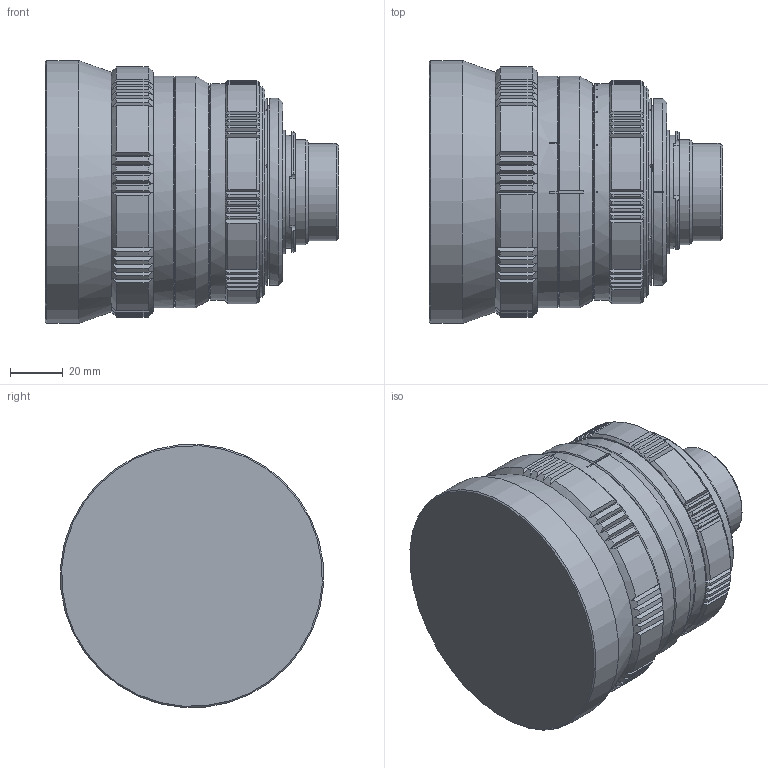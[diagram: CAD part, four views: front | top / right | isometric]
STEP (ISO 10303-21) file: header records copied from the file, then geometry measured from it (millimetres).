
FILE_DESCRIPTION((''),'2;1');
FILE_NAME('C:\Users\dblandino\Desktop\C0811_002_001.stp','2014-04-28T11:52:03',('dblandino'),(''),'Autodesk Inventor 2010','Autodesk Inventor 2010','');
FILE_SCHEMA(('AUTOMOTIVE_DESIGN { 1 0 10303 214 1 1 1 1 }'));
Length unit declared in the file: millimetre
Products named in the file (2): C0811_002_001.iam (Livello di dettaglio sostituto1); C0811_002_001_SUB
Assembly tree (1 placements, depth 2):
  C0811_002_001.iam (Livello di dettaglio sostituto1)
    C0811_002_001_SUB
Bounding box: 111.32 x 99.76 x 99.76 mm (x, y, z)
Volume: 592904.6 mm3; surface area: 46273.5 mm2
Topology: 1 solids, 2 shells, 524 faces, 1414 edges, 910 vertices
Faces by surface type: plane 294, cylinder 122, cone 104, bspline 4
Full cylindrical faces by diameter (mm): 37 x1, 40 x1, 43 x2, 44 x1, 47 x1, 65.5 x1, 80 x1, 82 x1, 88 x1, 100 x1
Entity records: 16486 total; most frequent: CARTESIAN_POINT 3579, ORIENTED_EDGE 2764, DIRECTION 2491, EDGE_CURVE 1382, AXIS2_PLACEMENT_3D 941, VERTEX_POINT 899, VECTOR 609, LINE 609
